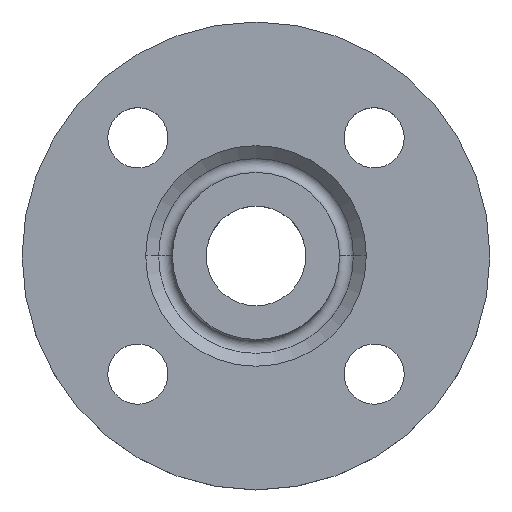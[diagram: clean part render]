
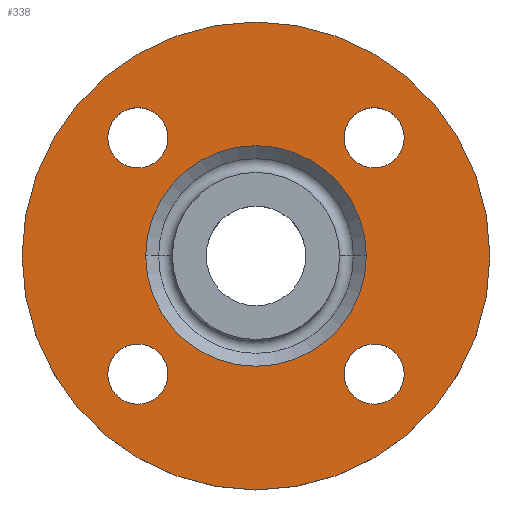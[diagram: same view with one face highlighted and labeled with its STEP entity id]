
A CAD part, top view. The second image highlights one B-rep face of the part: STEP entity #338.
In plain terms, the highlighted planar face has unit normal (0, 0, 1).
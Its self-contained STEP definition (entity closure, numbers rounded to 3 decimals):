
#1 = CARTESIAN_POINT ( 'NONE',  ( -35.355, 35.355, -2. ) ) ;
#3 = CIRCLE ( 'NONE', #473, 9. ) ;
#5 = VERTEX_POINT ( 'NONE', #626 ) ;
#16 = CARTESIAN_POINT ( 'NONE',  ( -44.355, 35.355, -2. ) ) ;
#29 = CIRCLE ( 'NONE', #507, 9. ) ;
#38 = ORIENTED_EDGE ( 'NONE', *, *, #76, .T. ) ;
#39 = VERTEX_POINT ( 'NONE', #477 ) ;
#43 = VERTEX_POINT ( 'NONE', #662 ) ;
#46 = CIRCLE ( 'NONE', #520, 33. ) ;
#47 = ORIENTED_EDGE ( 'NONE', *, *, #636, .F. ) ;
#49 = AXIS2_PLACEMENT_3D ( 'NONE', #822, #262, #517 ) ;
#60 = DIRECTION ( 'NONE',  ( 1., 0., 0. ) ) ;
#67 = VERTEX_POINT ( 'NONE', #789 ) ;
#75 = CIRCLE ( 'NONE', #539, 70. ) ;
#76 = EDGE_CURVE ( 'NONE', #114, #260, #460, .T. ) ;
#82 = DIRECTION ( 'NONE',  ( 0., 0., -1. ) ) ;
#93 = ORIENTED_EDGE ( 'NONE', *, *, #554, .T. ) ;
#95 = AXIS2_PLACEMENT_3D ( 'NONE', #162, #82, #341 ) ;
#114 = VERTEX_POINT ( 'NONE', #344 ) ;
#120 = DIRECTION ( 'NONE',  ( 0., 0., -1. ) ) ;
#123 = DIRECTION ( 'NONE',  ( 1., 0., 0. ) ) ;
#141 = AXIS2_PLACEMENT_3D ( 'NONE', #446, #691, #123 ) ;
#142 = CARTESIAN_POINT ( 'NONE',  ( 26.355, 35.355, -2. ) ) ;
#162 = CARTESIAN_POINT ( 'NONE',  ( 35.355, -35.355, -2. ) ) ;
#180 = EDGE_LOOP ( 'NONE', ( #562, #93 ) ) ;
#183 = DIRECTION ( 'NONE',  ( 0., 0., -1. ) ) ;
#189 = PLANE ( 'NONE',  #141 ) ;
#190 = DIRECTION ( 'NONE',  ( -1., 0., 0. ) ) ;
#197 = CIRCLE ( 'NONE', #652, 9. ) ;
#207 = DIRECTION ( 'NONE',  ( 0., 0., -1. ) ) ;
#214 = CIRCLE ( 'NONE', #669, 9. ) ;
#215 = DIRECTION ( 'NONE',  ( 1., 0., 0. ) ) ;
#216 = EDGE_CURVE ( 'NONE', #43, #456, #197, .T. ) ;
#225 = CARTESIAN_POINT ( 'NONE',  ( -35.355, -35.355, -2. ) ) ;
#234 = DIRECTION ( 'NONE',  ( 0., 0., -1. ) ) ;
#241 = CARTESIAN_POINT ( 'NONE',  ( 35.355, -35.355, -2. ) ) ;
#250 = FACE_BOUND ( 'NONE', #521, .T. ) ;
#260 = VERTEX_POINT ( 'NONE', #611 ) ;
#262 = DIRECTION ( 'NONE',  ( 0., 0., -1. ) ) ;
#268 = DIRECTION ( 'NONE',  ( 0., 0., -1. ) ) ;
#271 = ORIENTED_EDGE ( 'NONE', *, *, #394, .T. ) ;
#279 = CARTESIAN_POINT ( 'NONE',  ( 33., 0., -2. ) ) ;
#281 = EDGE_CURVE ( 'NONE', #260, #114, #783, .T. ) ;
#296 = ORIENTED_EDGE ( 'NONE', *, *, #216, .T. ) ;
#300 = ORIENTED_EDGE ( 'NONE', *, *, #728, .T. ) ;
#308 = CIRCLE ( 'NONE', #49, 33. ) ;
#312 = EDGE_CURVE ( 'NONE', #5, #67, #750, .T. ) ;
#316 = FACE_BOUND ( 'NONE', #451, .T. ) ;
#318 = EDGE_CURVE ( 'NONE', #436, #672, #29, .T. ) ;
#321 = CIRCLE ( 'NONE', #421, 9. ) ;
#338 = ADVANCED_FACE ( 'NONE', ( #316, #566, #811, #250, #508, #754 ), #189, .T. ) ;
#341 = DIRECTION ( 'NONE',  ( 1., 0., 0. ) ) ;
#344 = CARTESIAN_POINT ( 'NONE',  ( 44.355, -35.355, -2. ) ) ;
#350 = EDGE_LOOP ( 'NONE', ( #300, #824 ) ) ;
#377 = DIRECTION ( 'NONE',  ( 1., 0., 0. ) ) ;
#381 = CARTESIAN_POINT ( 'NONE',  ( 35.355, 35.355, -2. ) ) ;
#394 = EDGE_CURVE ( 'NONE', #456, #43, #321, .T. ) ;
#399 = AXIS2_PLACEMENT_3D ( 'NONE', #749, #183, #442 ) ;
#421 = AXIS2_PLACEMENT_3D ( 'NONE', #793, #234, #488 ) ;
#436 = VERTEX_POINT ( 'NONE', #807 ) ;
#441 = AXIS2_PLACEMENT_3D ( 'NONE', #241, #497, #744 ) ;
#442 = DIRECTION ( 'NONE',  ( -1., 0., 0. ) ) ;
#446 = CARTESIAN_POINT ( 'NONE',  ( 70., 0., -2. ) ) ;
#451 = EDGE_LOOP ( 'NONE', ( #38, #805 ) ) ;
#456 = VERTEX_POINT ( 'NONE', #685 ) ;
#458 = DIRECTION ( 'NONE',  ( -1., 0., 0. ) ) ;
#460 = CIRCLE ( 'NONE', #95, 9. ) ;
#473 = AXIS2_PLACEMENT_3D ( 'NONE', #1, #268, #522 ) ;
#475 = DIRECTION ( 'NONE',  ( 0., 0., -1. ) ) ;
#477 = CARTESIAN_POINT ( 'NONE',  ( -33., 0., -2. ) ) ;
#486 = EDGE_CURVE ( 'NONE', #791, #39, #46, .T. ) ;
#488 = DIRECTION ( 'NONE',  ( 1., 0., 0. ) ) ;
#497 = DIRECTION ( 'NONE',  ( 0., 0., -1. ) ) ;
#507 = AXIS2_PLACEMENT_3D ( 'NONE', #687, #120, #377 ) ;
#508 = FACE_BOUND ( 'NONE', #180, .T. ) ;
#510 = CARTESIAN_POINT ( 'NONE',  ( 0., 0., -2. ) ) ;
#517 = DIRECTION ( 'NONE',  ( -1., 0., 0. ) ) ;
#519 = EDGE_CURVE ( 'NONE', #672, #436, #621, .T. ) ;
#520 = AXIS2_PLACEMENT_3D ( 'NONE', #510, #755, #190 ) ;
#521 = EDGE_LOOP ( 'NONE', ( #665, #699 ) ) ;
#522 = DIRECTION ( 'NONE',  ( 1., 0., 0. ) ) ;
#529 = CARTESIAN_POINT ( 'NONE',  ( -35.355, 35.355, -2. ) ) ;
#539 = AXIS2_PLACEMENT_3D ( 'NONE', #770, #207, #458 ) ;
#549 = EDGE_LOOP ( 'NONE', ( #47, #617 ) ) ;
#554 = EDGE_CURVE ( 'NONE', #39, #791, #308, .T. ) ;
#555 = AXIS2_PLACEMENT_3D ( 'NONE', #381, #631, #60 ) ;
#559 = EDGE_LOOP ( 'NONE', ( #271, #296 ) ) ;
#562 = ORIENTED_EDGE ( 'NONE', *, *, #486, .T. ) ;
#566 = FACE_BOUND ( 'NONE', #559, .T. ) ;
#583 = EDGE_CURVE ( 'NONE', #788, #638, #3, .T. ) ;
#611 = CARTESIAN_POINT ( 'NONE',  ( 26.355, -35.355, -2. ) ) ;
#617 = ORIENTED_EDGE ( 'NONE', *, *, #312, .F. ) ;
#621 = CIRCLE ( 'NONE', #555, 9. ) ;
#626 = CARTESIAN_POINT ( 'NONE',  ( -70., 0., -2. ) ) ;
#631 = DIRECTION ( 'NONE',  ( 0., 0., -1. ) ) ;
#636 = EDGE_CURVE ( 'NONE', #67, #5, #75, .T. ) ;
#638 = VERTEX_POINT ( 'NONE', #707 ) ;
#652 = AXIS2_PLACEMENT_3D ( 'NONE', #225, #475, #724 ) ;
#662 = CARTESIAN_POINT ( 'NONE',  ( -44.355, -35.355, -2. ) ) ;
#665 = ORIENTED_EDGE ( 'NONE', *, *, #318, .T. ) ;
#669 = AXIS2_PLACEMENT_3D ( 'NONE', #529, #776, #215 ) ;
#672 = VERTEX_POINT ( 'NONE', #142 ) ;
#685 = CARTESIAN_POINT ( 'NONE',  ( -26.355, -35.355, -2. ) ) ;
#687 = CARTESIAN_POINT ( 'NONE',  ( 35.355, 35.355, -2. ) ) ;
#691 = DIRECTION ( 'NONE',  ( 0., 0., 1. ) ) ;
#699 = ORIENTED_EDGE ( 'NONE', *, *, #519, .T. ) ;
#707 = CARTESIAN_POINT ( 'NONE',  ( -26.355, 35.355, -2. ) ) ;
#724 = DIRECTION ( 'NONE',  ( 1., 0., 0. ) ) ;
#728 = EDGE_CURVE ( 'NONE', #638, #788, #214, .T. ) ;
#744 = DIRECTION ( 'NONE',  ( 1., 0., 0. ) ) ;
#749 = CARTESIAN_POINT ( 'NONE',  ( 0., 0., -2. ) ) ;
#750 = CIRCLE ( 'NONE', #399, 70. ) ;
#754 = FACE_OUTER_BOUND ( 'NONE', #549, .T. ) ;
#755 = DIRECTION ( 'NONE',  ( 0., 0., -1. ) ) ;
#770 = CARTESIAN_POINT ( 'NONE',  ( 0., 0., -2. ) ) ;
#776 = DIRECTION ( 'NONE',  ( 0., 0., -1. ) ) ;
#783 = CIRCLE ( 'NONE', #441, 9. ) ;
#788 = VERTEX_POINT ( 'NONE', #16 ) ;
#789 = CARTESIAN_POINT ( 'NONE',  ( 70., 0., -2. ) ) ;
#791 = VERTEX_POINT ( 'NONE', #279 ) ;
#793 = CARTESIAN_POINT ( 'NONE',  ( -35.355, -35.355, -2. ) ) ;
#805 = ORIENTED_EDGE ( 'NONE', *, *, #281, .T. ) ;
#807 = CARTESIAN_POINT ( 'NONE',  ( 44.355, 35.355, -2. ) ) ;
#811 = FACE_BOUND ( 'NONE', #350, .T. ) ;
#822 = CARTESIAN_POINT ( 'NONE',  ( 0., 0., -2. ) ) ;
#824 = ORIENTED_EDGE ( 'NONE', *, *, #583, .T. ) ;
